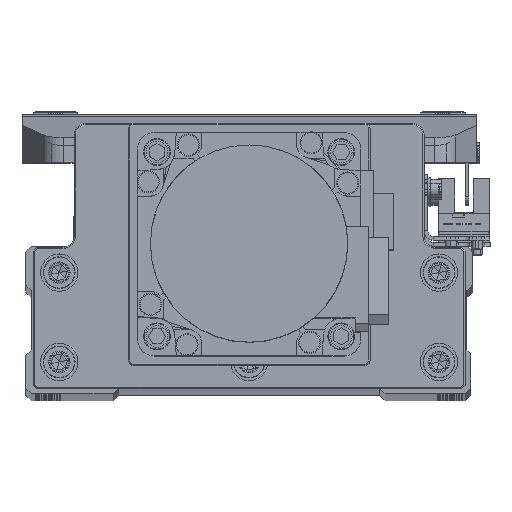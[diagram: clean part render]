
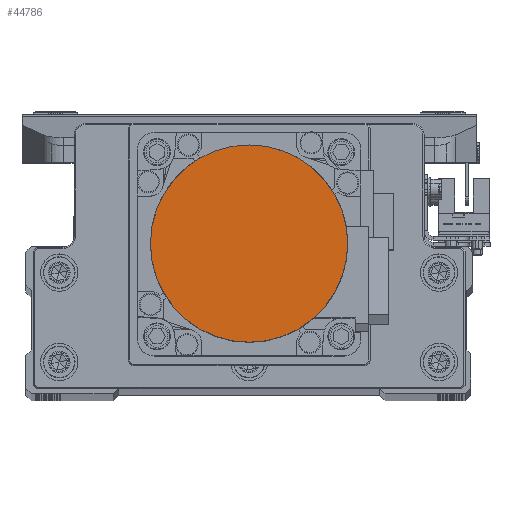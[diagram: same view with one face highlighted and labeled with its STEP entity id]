
A CAD part, top view. The second image highlights one B-rep face of the part: STEP entity #44786.
In plain terms, the highlighted planar face has unit normal (0, 0, 1) as drawn and (0, 0, -1) by its records, which use the part's own axes.
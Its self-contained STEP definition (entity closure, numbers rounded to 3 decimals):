
#60 = ORIENTED_EDGE ( 'NONE', *, *, #971, .F. ) ;
#470 = VERTEX_POINT ( 'NONE', #23951 ) ;
#971 = EDGE_CURVE ( 'NONE', #470, #41841, #6953, .T. ) ;
#1969 = CARTESIAN_POINT ( 'NONE',  ( 0., 0., -109.7 ) ) ;
#4420 = DIRECTION ( 'NONE',  ( 0., 0., 1. ) ) ;
#4435 = AXIS2_PLACEMENT_3D ( 'NONE', #36657, #4420, #18767 ) ;
#4555 = DIRECTION ( 'NONE',  ( 0., 0., 1. ) ) ;
#4909 = CIRCLE ( 'NONE', #31193, 26.5 ) ;
#6953 = CIRCLE ( 'NONE', #16010, 26.5 ) ;
#7948 = FACE_OUTER_BOUND ( 'NONE', #19077, .T. ) ;
#16010 = AXIS2_PLACEMENT_3D ( 'NONE', #36786, #4555, #18904 ) ;
#16335 = DIRECTION ( 'NONE',  ( 0., 0., 1. ) ) ;
#18767 = DIRECTION ( 'NONE',  ( 1., 0., 0. ) ) ;
#18904 = DIRECTION ( 'NONE',  ( 1., 0., 0. ) ) ;
#19077 = EDGE_LOOP ( 'NONE', ( #34170, #60 ) ) ;
#22302 = PLANE ( 'NONE',  #4435 ) ;
#23951 = CARTESIAN_POINT ( 'NONE',  ( 26.5, 0., -109.7 ) ) ;
#30685 = DIRECTION ( 'NONE',  ( -1., 0., 0. ) ) ;
#31193 = AXIS2_PLACEMENT_3D ( 'NONE', #1969, #16335, #30685 ) ;
#31980 = CARTESIAN_POINT ( 'NONE',  ( -26.5, 0., -109.7 ) ) ;
#34170 = ORIENTED_EDGE ( 'NONE', *, *, #34708, .F. ) ;
#34708 = EDGE_CURVE ( 'NONE', #41841, #470, #4909, .T. ) ;
#36657 = CARTESIAN_POINT ( 'NONE',  ( 0., 0., -109.7 ) ) ;
#36786 = CARTESIAN_POINT ( 'NONE',  ( 0., 0., -109.7 ) ) ;
#41841 = VERTEX_POINT ( 'NONE', #31980 ) ;
#44786 = ADVANCED_FACE ( 'NONE', ( #7948 ), #22302, .F. ) ;
